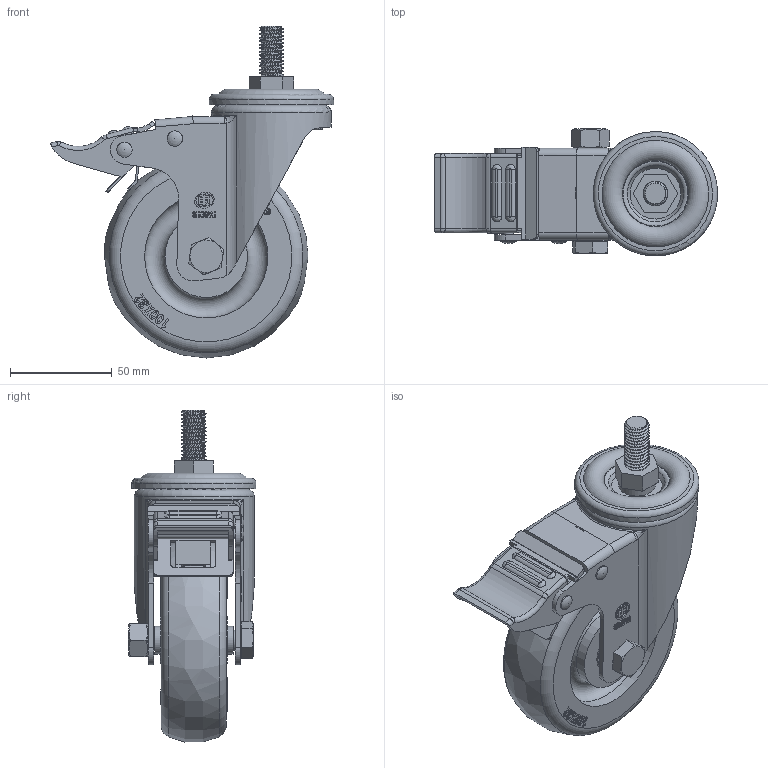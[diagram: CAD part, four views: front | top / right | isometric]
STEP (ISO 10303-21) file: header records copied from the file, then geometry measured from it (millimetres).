
FILE_DESCRIPTION(/* description */ (''),/* implementation_level */ '2;1');
FILE_NAME(/* name */ '20AA6_4_F.stp',/* time_stamp */ '2022-09-03T10:58:15+08:00',/* author */ (''),/* organization */ (''),/* preprocessor_version */ 'ST-DEVELOPER v14',/* originating_system */ 'SIEMENS PLM Software NX 8.0',/* authorisation */ '');
FILE_SCHEMA (('AUTOMOTIVE_DESIGN { 1 0 10303 214 3 1 1 1 }'));
Length unit declared in the file: millimetre
Products named in the file (1): 20AA6_4_F
Bounding box: 138.97 x 62.75 x 162.93 mm (x, y, z)
Volume: 280234.4 mm3; surface area: 88167.4 mm2
Topology: 1 solids, 1 shells, 1052 faces, 3031 edges, 1999 vertices
Faces by surface type: plane 566, cylinder 273, torus 73, sphere 44, cone 36, bspline 36, extrusion 24
Full cylindrical faces by diameter (mm): 2.841 x1, 3.44 x1, 4 x2, 5 x2, 5.2 x7, 7.5 x2, 10 x2, 10.2 x2, 12 x1, 12.2 x1, 12.496 x1, 13.6 x2, 16 x1, 18 x1, 23 x2, 30.122 x1, 40.5 x2, 45.996 x1, 54 x1, 56 x1, 59 x1, 60.5 x2, 61 x1
Entity records: 42904 total; most frequent: CARTESIAN_POINT 17350, ORIENTED_EDGE 5568, DIRECTION 4823, EDGE_CURVE 2784, VERTEX_POINT 1875, AXIS2_PLACEMENT_3D 1702, VECTOR 1419, LINE 1395
